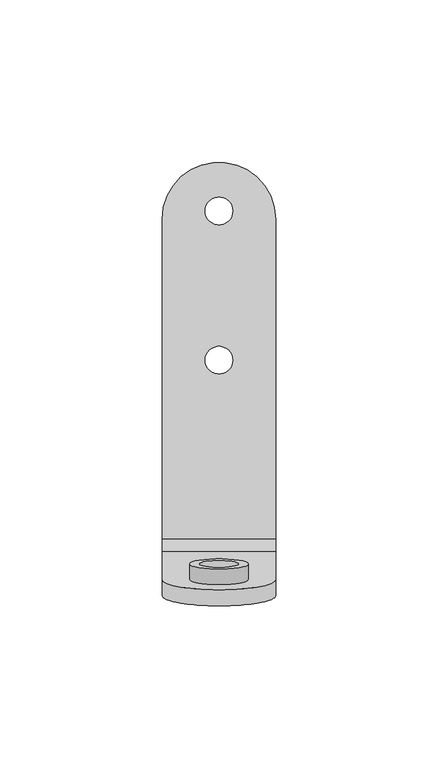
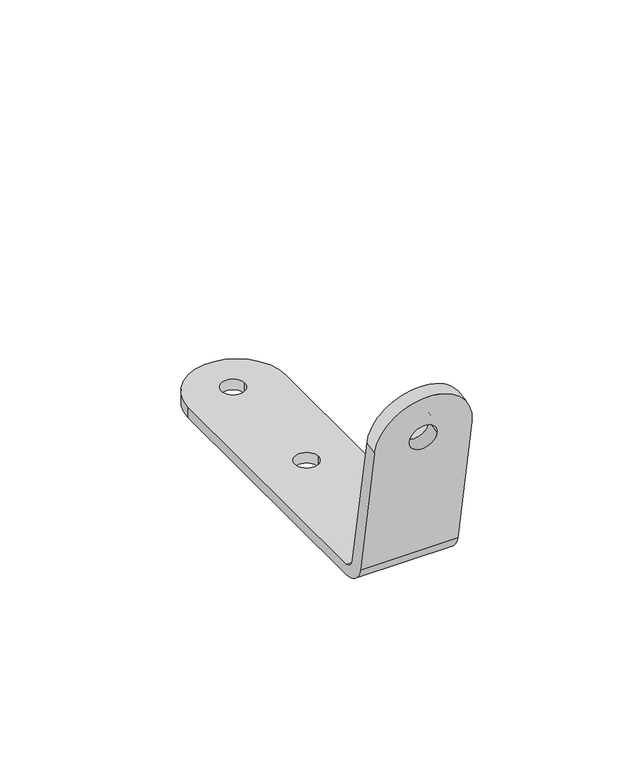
"""IFC4 building model written with IfcOpenShell, lengths in millimetres: proxy geometry, d&b xS-Series 42S l 44S Horizontal Bracket : 42S l 44S Horizontal Bracket."""

from ifc_helpers import new_model, si_unit, point, frame, frame_2d, origin, place, context, project, spatial, polyline, circle_curve, trimmed, segment, composite_curve, outline, extrude, source, transform, mapped, element, save
from ifc_brep_helpers import plane_surface, cylinder_surface, revolved_surface, advanced_brep


def communication_devices_60afc5a3(model_context):
    return source(origin(), model_context, "Body", "SolidModel", [
        advanced_brep(
        [(17.5, 20.5, 0.0), (-17.5, 20.5, 0.0), (-17.5, -78.0, 0.0), (17.5, -78.0, 0.0), (-4.25, -23.0, 0.0), (4.25, -23.0, 0.0), (-4.25, 23.0, 0.0), (4.25, 23.0, 0.0), (17.5, 20.5, -4.0), (17.5, -78.0, -4.0), (-17.5, -78.0, -4.0), (-17.5, 20.5, -4.0), (-4.25, -23.0, -4.0), (4.25, -23.0, -4.0), (-4.25, 23.0, -4.0), (4.25, 23.0, -4.0), (17.5, -82.0, 4.0), (17.5, -90.769233, 53.7327915), (17.5, -95.6932717, 52.8645506), (17.5, -86.9240388, 3.1317591), (-17.5, -86.9240388, 3.1317591), (-17.5, -95.6932717, 52.8645506), (-17.5, -90.769233, 53.7327915), (-17.5, -82.0, 4.0), (-5.0, -95.6932717, 52.8645506), (5.0, -95.6932717, 52.8645506), (-5.0, -90.769233, 53.7327915), (5.0, -90.769233, 53.7327915)],
        [
            (0, 1, circle_curve(frame((0.0, 20.5, 0.0), z_axis=(0.0, 0.0, 1.0), x_axis=(1.0, 0.0, 0.0)), 17.5)),
            (1, 2),
            (2, 3),
            (3, 0),
            (4, 5, circle_curve(frame((0.0, -23.0, 0.0), z_axis=(0.0, 0.0, -1.0), x_axis=(1.0, 0.0, 0.0)), 4.25)),
            (5, 4, circle_curve(frame((0.0, -23.0, 0.0), z_axis=(0.0, 0.0, -1.0), x_axis=(1.0, 0.0, 0.0)), 4.25)),
            (6, 7, circle_curve(frame((0.0, 23.0, 0.0), z_axis=(0.0, 0.0, -1.0), x_axis=(1.0, 0.0, 0.0)), 4.25)),
            (7, 6, circle_curve(frame((0.0, 23.0, 0.0), z_axis=(0.0, 0.0, -1.0), x_axis=(1.0, 0.0, 0.0)), 4.25)),
            (8, 9),
            (9, 10),
            (10, 11),
            (11, 8, circle_curve(frame((0.0, 20.5, -4.0), z_axis=(0.0, 0.0, -1.0), x_axis=(1.0, 0.0, 0.0)), 17.5)),
            (12, 13, circle_curve(frame((0.0, -23.0, -4.0), z_axis=(0.0, 0.0, 1.0), x_axis=(1.0, 0.0, 0.0)), 4.25)),
            (13, 12, circle_curve(frame((0.0, -23.0, -4.0), z_axis=(0.0, 0.0, 1.0), x_axis=(1.0, 0.0, 0.0)), 4.25)),
            (14, 15, circle_curve(frame((0.0, 23.0, -4.0), z_axis=(0.0, 0.0, 1.0), x_axis=(1.0, 0.0, 0.0)), 4.25)),
            (15, 14, circle_curve(frame((0.0, 23.0, -4.0), z_axis=(0.0, 0.0, 1.0), x_axis=(1.0, 0.0, 0.0)), 4.25)),
            (3, 16, circle_curve(frame((17.5, -77.143704, 4.856296), z_axis=(-1.0, 0.0, 0.0), x_axis=(0.0, 1.0, 0.0)), 4.9312122)),
            (16, 17),
            (17, 18),
            (18, 19),
            (19, 9, circle_curve(frame((17.5, -78.0, 5.1492473), z_axis=(1.0, 0.0, 0.0), x_axis=(0.0, 1.0, 0.0)), 9.1492473)),
            (8, 0),
            (1, 11),
            (10, 20, circle_curve(frame((-17.5, -78.0, 5.1492473), z_axis=(-1.0, 0.0, 0.0), x_axis=(0.0, 1.0, 0.0)), 9.1492473)),
            (20, 21),
            (21, 22),
            (22, 23),
            (23, 2, circle_curve(frame((-17.5, -77.143704, 4.856296), z_axis=(1.0, 0.0, 0.0), x_axis=(0.0, 1.0, 0.0)), 4.9312122)),
            (5, 13),
            (12, 4),
            (7, 15),
            (14, 6),
            (19, 20),
            (18, 21, circle_curve(frame((0.0, -95.6932717, 52.8645506), z_axis=(0.0, -0.9848077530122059, -0.17364817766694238), x_axis=(1.0, 0.0, 0.0)), 17.5)),
            (24, 25, circle_curve(frame((0.0, -95.6932717, 52.8645506), z_axis=(0.0, 0.9848077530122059, 0.17364817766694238), x_axis=(1.0, 0.0, 0.0)), 5.0)),
            (25, 24, circle_curve(frame((0.0, -95.6932717, 52.8645506), z_axis=(0.0, 0.9848077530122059, 0.17364817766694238), x_axis=(1.0, 0.0, 0.0)), 5.0)),
            (16, 23),
            (22, 17, circle_curve(frame((0.0, -90.769233, 53.7327915), z_axis=(0.0, 0.9848077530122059, 0.17364817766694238), x_axis=(1.0, 0.0, 0.0)), 17.5)),
            (26, 27, circle_curve(frame((0.0, -90.769233, 53.7327915), z_axis=(0.0, -0.9848077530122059, -0.17364817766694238), x_axis=(1.0, 0.0, 0.0)), 5.0)),
            (27, 26, circle_curve(frame((0.0, -90.769233, 53.7327915), z_axis=(0.0, -0.9848077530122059, -0.17364817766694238), x_axis=(1.0, 0.0, 0.0)), 5.0)),
            (25, 27),
            (26, 24),
        ],
        [
            plane_surface(frame((17.5, -78.0, 0.0), z_axis=(0.0, 0.0, 1.0), x_axis=(0.0, -1.0, 0.0))),
            plane_surface(frame((17.5, -78.0, -4.0), z_axis=(0.0, 0.0, -1.0), x_axis=(0.0, 1.0, 0.0))),
            plane_surface(frame((17.5, 20.5, 0.0), z_axis=(1.0, 0.0, 0.0), x_axis=(0.0, 0.0, -1.0))),
            plane_surface(frame((-17.5, -78.0, 0.0), z_axis=(-1.0, 0.0, 0.0), x_axis=(0.0, 0.0, -1.0))),
            cylinder_surface(frame((0.0, 20.5, -4.0), z_axis=(0.0, 0.0, 1.0), x_axis=(1.0, 0.0, 0.0)), 17.5),
            revolved_surface(polyline([(4.25, -23.0, -4.0), (4.25, -23.0, 0.0)]), (0.0, -23.0, 46.0), (0.0, 0.0, -1.0)),
            revolved_surface(polyline([(4.25, 23.0, -4.0), (4.25, 23.0, 0.0)]), (0.0, 23.0, 46.0), (0.0, 0.0, -1.0)),
            cylinder_surface(frame((-17.5, -78.0, 5.1492473), z_axis=(1.0, 0.0, 0.0), x_axis=(0.0, 1.0, 0.0)), 9.1492473),
            plane_surface(frame((17.5, -86.9240388, 3.1317591), z_axis=(0.0, -0.9848077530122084, -0.17364817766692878), x_axis=(0.0, 0.17364817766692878, -0.9848077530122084))),
            plane_surface(frame((17.5, -82.0, 4.0), z_axis=(0.0, 0.9848077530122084, 0.17364817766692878), x_axis=(0.0, -0.17364817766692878, 0.9848077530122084))),
            cylinder_surface(frame((0.0, -90.769233, 53.7327915), z_axis=(0.0, -0.9848077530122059, -0.17364817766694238), x_axis=(1.0, 0.0, 0.0)), 17.5),
            revolved_surface(polyline([(5.0, -90.769233, 53.7327915), (5.0, -95.69327170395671, 52.86455062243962)]), (0.0, -90.769233, 53.7327915), (0.0, 0.9848077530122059, 0.17364817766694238)),
            revolved_surface(polyline([(-17.5, -72.2124918, 4.856296), (17.5, -72.2124918, 4.856296)]), (-17.5, -77.143704, 4.856296), (-1.0, 0.0, 0.0)),
        ],
        [
            (0, [[1, 2, 3, 4], [5, 6], [7, 8]]),
            (1, [[9, 10, 11, 12], [13, 14], [15, 16]]),
            (2, [[17, 18, 19, 20, 21, -9, 22, -4]]),
            (3, [[23, -11, 24, 25, 26, 27, 28, -2]]),
            (4, [[-22, -12, -23, -1]]),
            (5, [[29, -13, 30, -6]]),
            (5, [[-30, -14, -29, -5]]),
            (6, [[31, -15, 32, -8]]),
            (6, [[-32, -16, -31, -7]]),
            (7, [[33, -24, -10, -21]]),
            (8, [[34, -25, -33, -20], [35, 36]]),
            (9, [[-18, 37, -27, 38], [39, 40]]),
            (10, [[-19, -38, -26, -34]]),
            (11, [[41, -39, 42, -36]]),
            (11, [[-42, -40, -41, -35]]),
            (12, [[-3, -28, -37, -17]]),
        ],
    ),
        extrude(outline(composite_curve([segment(trimmed(circle_curve(frame_2d((0.0, -6.0)), 9.0), [point((0.0, -15.0))], [point((0.0, 3.0))], False, "CARTESIAN"), True, "CONTINUOUS"), segment(trimmed(circle_curve(frame_2d((0.0, -6.0)), 9.0), [point((0.0, 3.0))], [point((0.0, -15.0))], False, "CARTESIAN"), True, "CONTINUOUS")], self_intersect=False), holes=[composite_curve([segment(trimmed(circle_curve(frame_2d((0.0, -6.0)), 6.0), [point((0.0, -12.0))], [point((0.0, 0.0))], True, "CARTESIAN"), True, "CONTINUOUS"), segment(trimmed(circle_curve(frame_2d((0.0, -6.0)), 6.0), [point((0.0, 0.0))], [point((0.0, -12.0))], True, "CARTESIAN"), True, "CONTINUOUS")], self_intersect=False)]), frame((6.0, -90.769233, 53.7327915), z_axis=(0.0, 0.9848077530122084, 0.17364817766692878), x_axis=(0.0, -0.17364817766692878, 0.9848077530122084)), (0.0, 0.0, 1.0), 5.0),
    ])


if __name__ == "__main__":
    model = new_model("IFC4")
    model_context = context("Model", 3, world=origin())
    ifc_project = project(units=[si_unit("LENGTHUNIT", "METRE", prefix="MILLI")], contexts=[model_context])
    site = spatial("IfcSite", under=ifc_project)
    building = spatial("IfcBuilding", under=site)
    placement = place(None, origin())
    communication_devices_shape = communication_devices_60afc5a3(model_context)
    element("IfcBuildingElementProxy", 1, Name="d&b xS-Series 42S l 44S Horizontal Bracket : 42S l 44S Horizontal Bracket", ObjectType="d&b xS-Series 42S l 44S Horizontal Bracket : 42S l 44S Horizontal Bracket", at=placement, inside=building, context=model_context, shape_type="MappedRepresentation", body=[
        mapped(communication_devices_shape, transform((0.0, 0.0, 0.0), x_axis=(1.0, 0.0, 0.0), y_axis=(0.0, 1.0, 0.0), z_axis=(0.0, 0.0, 1.0))),
    ])
    save(model, "model.ifc")
